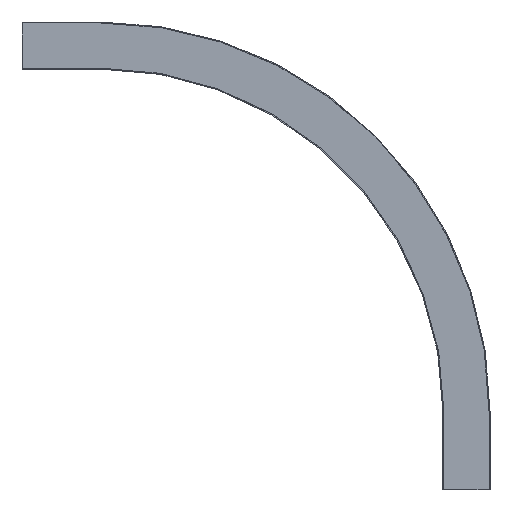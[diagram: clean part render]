
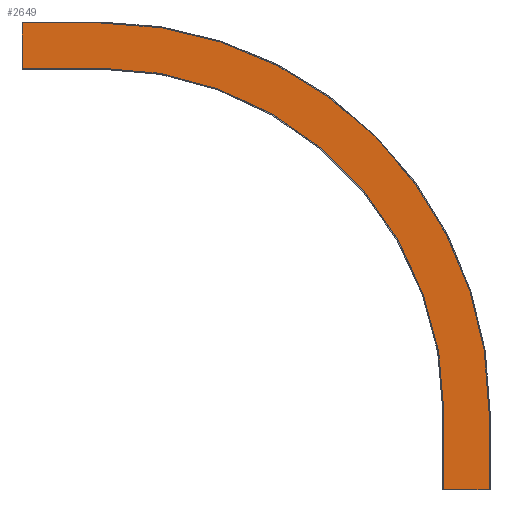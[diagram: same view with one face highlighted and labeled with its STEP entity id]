
A CAD part, front view. The second image highlights one B-rep face of the part: STEP entity #2649.
In plain terms, the highlighted planar face has unit normal (0, -1, 0).
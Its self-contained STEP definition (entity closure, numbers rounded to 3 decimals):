
#211 = DIRECTION ( 'NONE',  ( -1., 0., 0. ) ) ;
#213 = CARTESIAN_POINT ( 'NONE',  ( -700., -42., 893.15 ) ) ;
#226 = DIRECTION ( 'NONE',  ( -1., 0., 0. ) ) ;
#233 = CARTESIAN_POINT ( 'NONE',  ( -700., -42., 806.85 ) ) ;
#374 = CARTESIAN_POINT ( 'NONE',  ( -43.15, -42., 150. ) ) ;
#375 = DIRECTION ( 'NONE',  ( 0., 0., -1. ) ) ;
#376 = CARTESIAN_POINT ( 'NONE',  ( -43.15, -42., 0. ) ) ;
#377 = DIRECTION ( 'NONE',  ( -1., 0., 0. ) ) ;
#380 = CARTESIAN_POINT ( 'NONE',  ( 43.15, -42., 150. ) ) ;
#381 = DIRECTION ( 'NONE',  ( 0., 0., -1. ) ) ;
#382 = CARTESIAN_POINT ( 'NONE',  ( -850., -42., 806.85 ) ) ;
#383 = DIRECTION ( 'NONE',  ( 0., 0., -1. ) ) ;
#592 = CARTESIAN_POINT ( 'NONE',  ( 43.15, -42., 150. ) ) ;
#613 = CARTESIAN_POINT ( 'NONE',  ( -43.15, -42., 150. ) ) ;
#669 = CARTESIAN_POINT ( 'NONE',  ( -700., -42., 806.85 ) ) ;
#672 = CARTESIAN_POINT ( 'NONE',  ( -700., -42., 893.15 ) ) ;
#675 = CARTESIAN_POINT ( 'NONE',  ( -850., -42., 806.85 ) ) ;
#679 = CARTESIAN_POINT ( 'NONE',  ( -850., -42., 893.15 ) ) ;
#735 = CARTESIAN_POINT ( 'NONE',  ( -43.15, -42., 0. ) ) ;
#737 = CARTESIAN_POINT ( 'NONE',  ( 43.15, -42., 0. ) ) ;
#806 = PLANE ( 'NONE',  #3133 ) ;
#807 = CARTESIAN_POINT ( 'NONE',  ( -43.15, -42., 150. ) ) ;
#812 = DIRECTION ( 'NONE',  ( 0., -1., 0. ) ) ;
#813 = DIRECTION ( 'NONE',  ( 1., 0., 0. ) ) ;
#841 = CARTESIAN_POINT ( 'NONE',  ( -700., -42., 150. ) ) ;
#842 = DIRECTION ( 'NONE',  ( 0., 0., -1. ) ) ;
#843 = DIRECTION ( 'NONE',  ( 0., -1., 0. ) ) ;
#844 = CARTESIAN_POINT ( 'NONE',  ( -700., -42., 150. ) ) ;
#852 = DIRECTION ( 'NONE',  ( 0., 0., -1. ) ) ;
#853 = DIRECTION ( 'NONE',  ( 0., -1., 0. ) ) ;
#1178 = AXIS2_PLACEMENT_3D ( 'NONE', #844, #843, #842 ) ;
#1180 = AXIS2_PLACEMENT_3D ( 'NONE', #841, #853, #852 ) ;
#1271 = EDGE_CURVE ( 'NONE', #2459, #2465, #1717, .T. ) ;
#1278 = EDGE_CURVE ( 'Edge42', #2462, #2469, #1703, .T. ) ;
#1385 = EDGE_CURVE ( 'NONE', #2399, #2459, #1523, .T. ) ;
#1388 = EDGE_CURVE ( 'Edge18', #1826, #2462, #1515, .T. ) ;
#1417 = EDGE_CURVE ( 'NONE', #2399, #2623, #2998, .T. ) ;
#1418 = EDGE_CURVE ( 'NONE', #2625, #2623, #2996, .T. ) ;
#1420 = EDGE_CURVE ( 'NONE', #1826, #2625, #2992, .T. ) ;
#1421 = EDGE_CURVE ( 'NONE', #2469, #2465, #2990, .T. ) ;
#1515 = CIRCLE ( 'NONE', #1178, 743.15 ) ;
#1523 = CIRCLE ( 'NONE', #1180, 656.85 ) ;
#1700 = VECTOR ( 'NONE', #211, 1000. ) ;
#1703 = LINE ( 'NONE', #213, #1700 ) ;
#1710 = VECTOR ( 'NONE', #226, 1000. ) ;
#1717 = LINE ( 'NONE', #233, #1710 ) ;
#1826 = VERTEX_POINT ( 'NONE', #592 ) ;
#2252 = ORIENTED_EDGE ( 'NONE', *, *, #1418, .F. ) ;
#2253 = ORIENTED_EDGE ( 'NONE', *, *, #1420, .F. ) ;
#2254 = ORIENTED_EDGE ( 'NONE', *, *, #1388, .T. ) ;
#2255 = ORIENTED_EDGE ( 'NONE', *, *, #1278, .T. ) ;
#2256 = ORIENTED_EDGE ( 'NONE', *, *, #1421, .T. ) ;
#2257 = ORIENTED_EDGE ( 'NONE', *, *, #1271, .F. ) ;
#2258 = ORIENTED_EDGE ( 'NONE', *, *, #1385, .F. ) ;
#2259 = ORIENTED_EDGE ( 'NONE', *, *, #1417, .T. ) ;
#2399 = VERTEX_POINT ( 'NONE', #613 ) ;
#2459 = VERTEX_POINT ( 'NONE', #669 ) ;
#2462 = VERTEX_POINT ( 'NONE', #672 ) ;
#2465 = VERTEX_POINT ( 'NONE', #675 ) ;
#2469 = VERTEX_POINT ( 'NONE', #679 ) ;
#2602 = EDGE_LOOP ( 'NONE', ( #2252, #2253, #2254, #2255, #2256, #2257, #2258, #2259 ) ) ;
#2623 = VERTEX_POINT ( 'NONE', #735 ) ;
#2625 = VERTEX_POINT ( 'NONE', #737 ) ;
#2649 = ADVANCED_FACE ( 'NONE', ( #2782 ), #806, .T. ) ;
#2782 = FACE_OUTER_BOUND ( 'NONE', #2602, .T. ) ;
#2987 = VECTOR ( 'NONE', #383, 1000. ) ;
#2989 = VECTOR ( 'NONE', #381, 1000. ) ;
#2990 = LINE ( 'NONE', #382, #2987 ) ;
#2992 = LINE ( 'NONE', #380, #2989 ) ;
#2993 = VECTOR ( 'NONE', #377, 1000. ) ;
#2995 = VECTOR ( 'NONE', #375, 1000. ) ;
#2996 = LINE ( 'NONE', #376, #2993 ) ;
#2998 = LINE ( 'NONE', #374, #2995 ) ;
#3133 = AXIS2_PLACEMENT_3D ( 'NONE', #807, #812, #813 ) ;
